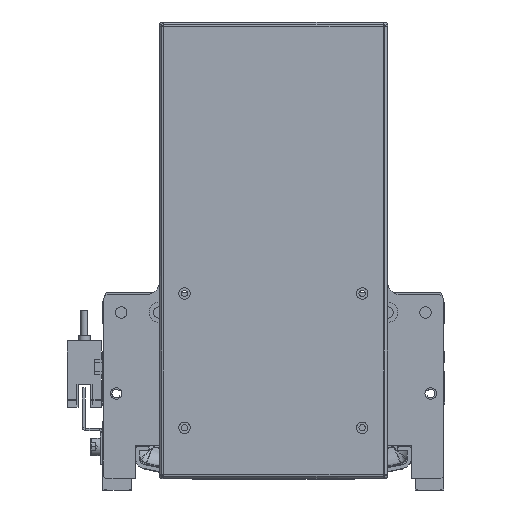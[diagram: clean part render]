
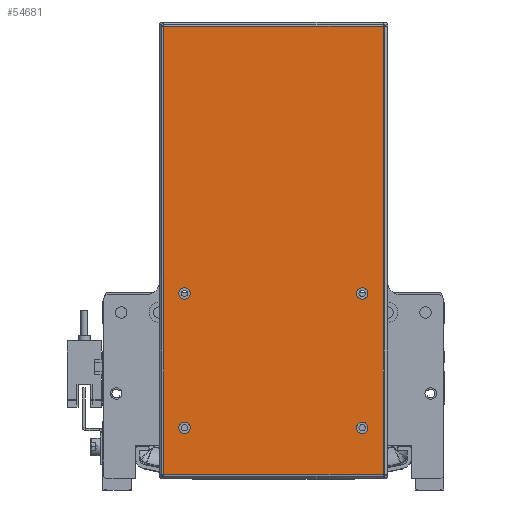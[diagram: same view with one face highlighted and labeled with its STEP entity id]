
A CAD part, front view. The second image highlights one B-rep face of the part: STEP entity #54681.
In plain terms, the highlighted planar face has unit normal (0, -1, 0) as drawn and (0, 1, 0) by its records, which use the part's own axes.
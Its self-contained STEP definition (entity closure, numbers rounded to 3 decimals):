
#10 = DIRECTION ( 'NONE',  ( 0., 1., 0. ) ) ;
#681 = ORIENTED_EDGE ( 'NONE', *, *, #22989, .F. ) ;
#1384 = CARTESIAN_POINT ( 'NONE',  ( -43.263, 0., 88.263 ) ) ;
#2715 = EDGE_CURVE ( 'NONE', #30938, #9114, #4646, .T. ) ;
#2759 = LINE ( 'NONE', #8003, #22894 ) ;
#3639 = EDGE_CURVE ( 'NONE', #40162, #25144, #25400, .T. ) ;
#3832 = FACE_BOUND ( 'NONE', #17102, .T. ) ;
#4556 = CARTESIAN_POINT ( 'NONE',  ( 35., 0., -70. ) ) ;
#4646 = CIRCLE ( 'NONE', #24543, 2.25 ) ;
#5267 = CARTESIAN_POINT ( 'NONE',  ( 35., 0., -14.75 ) ) ;
#5279 = CARTESIAN_POINT ( 'NONE',  ( -35., 0., -17. ) ) ;
#5287 = CARTESIAN_POINT ( 'NONE',  ( -35., 0., -67.75 ) ) ;
#5578 = CIRCLE ( 'NONE', #32184, 2.25 ) ;
#6813 = CARTESIAN_POINT ( 'NONE',  ( 35., 0., -72.25 ) ) ;
#7373 = CARTESIAN_POINT ( 'NONE',  ( 0., 0., 0. ) ) ;
#7420 = VERTEX_POINT ( 'NONE', #1384 ) ;
#8003 = CARTESIAN_POINT ( 'NONE',  ( -43.263, 0., -88.293 ) ) ;
#8031 = VERTEX_POINT ( 'NONE', #5287 ) ;
#8381 = ORIENTED_EDGE ( 'NONE', *, *, #3639, .F. ) ;
#8430 = AXIS2_PLACEMENT_3D ( 'NONE', #5279, #18291, #27545 ) ;
#8723 = ORIENTED_EDGE ( 'NONE', *, *, #16533, .T. ) ;
#8935 = CIRCLE ( 'NONE', #9133, 2.25 ) ;
#9114 = VERTEX_POINT ( 'NONE', #5267 ) ;
#9133 = AXIS2_PLACEMENT_3D ( 'NONE', #39304, #10, #39678 ) ;
#9327 = LINE ( 'NONE', #46648, #10715 ) ;
#10715 = VECTOR ( 'NONE', #20792, 1000. ) ;
#11821 = ORIENTED_EDGE ( 'NONE', *, *, #12286, .T. ) ;
#12024 = CARTESIAN_POINT ( 'NONE',  ( -35., 0., -70. ) ) ;
#12286 = EDGE_CURVE ( 'NONE', #7420, #55052, #9327, .T. ) ;
#12975 = CARTESIAN_POINT ( 'NONE',  ( 35., 0., -17. ) ) ;
#13705 = ORIENTED_EDGE ( 'NONE', *, *, #28531, .F. ) ;
#14323 = AXIS2_PLACEMENT_3D ( 'NONE', #42929, #51793, #33438 ) ;
#14703 = AXIS2_PLACEMENT_3D ( 'NONE', #7373, #51658, #52429 ) ;
#15021 = CIRCLE ( 'NONE', #30062, 2.25 ) ;
#16024 = AXIS2_PLACEMENT_3D ( 'NONE', #12975, #52796, #30191 ) ;
#16360 = CARTESIAN_POINT ( 'NONE',  ( 43.263, 0., -88.263 ) ) ;
#16409 = CIRCLE ( 'NONE', #16024, 2.25 ) ;
#16533 = EDGE_CURVE ( 'NONE', #55052, #22638, #50121, .T. ) ;
#16991 = EDGE_LOOP ( 'NONE', ( #8723, #55547, #56218, #11821 ) ) ;
#17102 = EDGE_LOOP ( 'NONE', ( #681, #27650 ) ) ;
#17937 = DIRECTION ( 'NONE',  ( 0., 0., 1. ) ) ;
#18291 = DIRECTION ( 'NONE',  ( 0., 1., 0. ) ) ;
#20569 = CARTESIAN_POINT ( 'NONE',  ( 35., 0., -19.25 ) ) ;
#20792 = DIRECTION ( 'NONE',  ( 1., 0., 0. ) ) ;
#22638 = VERTEX_POINT ( 'NONE', #16360 ) ;
#22894 = VECTOR ( 'NONE', #34325, 1000. ) ;
#22989 = EDGE_CURVE ( 'NONE', #30946, #36017, #8935, .T. ) ;
#24543 = AXIS2_PLACEMENT_3D ( 'NONE', #29805, #47563, #46801 ) ;
#25144 = VERTEX_POINT ( 'NONE', #36738 ) ;
#25201 = DIRECTION ( 'NONE',  ( 0., 0., 1. ) ) ;
#25223 = DIRECTION ( 'NONE',  ( 0., 0., 1. ) ) ;
#25340 = EDGE_CURVE ( 'NONE', #22638, #38723, #27443, .T. ) ;
#25400 = CIRCLE ( 'NONE', #8430, 2.25 ) ;
#25413 = ORIENTED_EDGE ( 'NONE', *, *, #32594, .F. ) ;
#25734 = DIRECTION ( 'NONE',  ( -1., 0., 0. ) ) ;
#25852 = AXIS2_PLACEMENT_3D ( 'NONE', #29286, #51680, #25223 ) ;
#27340 = FACE_BOUND ( 'NONE', #27856, .T. ) ;
#27443 = LINE ( 'NONE', #52189, #37824 ) ;
#27545 = DIRECTION ( 'NONE',  ( 0., 0., 1. ) ) ;
#27650 = ORIENTED_EDGE ( 'NONE', *, *, #47966, .F. ) ;
#27697 = EDGE_LOOP ( 'NONE', ( #49847, #30385 ) ) ;
#27856 = EDGE_LOOP ( 'NONE', ( #25413, #8381 ) ) ;
#28531 = EDGE_CURVE ( 'NONE', #8031, #44207, #15021, .T. ) ;
#28672 = EDGE_CURVE ( 'NONE', #9114, #30938, #16409, .T. ) ;
#28774 = DIRECTION ( 'NONE',  ( 0., 0., -1. ) ) ;
#28872 = CARTESIAN_POINT ( 'NONE',  ( 35., 0., -67.75 ) ) ;
#29286 = CARTESIAN_POINT ( 'NONE',  ( -35., 0., -70. ) ) ;
#29805 = CARTESIAN_POINT ( 'NONE',  ( 35., 0., -17. ) ) ;
#30062 = AXIS2_PLACEMENT_3D ( 'NONE', #12024, #56281, #25201 ) ;
#30191 = DIRECTION ( 'NONE',  ( 0., 0., 1. ) ) ;
#30385 = ORIENTED_EDGE ( 'NONE', *, *, #2715, .F. ) ;
#30938 = VERTEX_POINT ( 'NONE', #20569 ) ;
#30946 = VERTEX_POINT ( 'NONE', #28872 ) ;
#32184 = AXIS2_PLACEMENT_3D ( 'NONE', #4556, #53474, #17937 ) ;
#32594 = EDGE_CURVE ( 'NONE', #25144, #40162, #34363, .T. ) ;
#32894 = EDGE_LOOP ( 'NONE', ( #13705, #37974 ) ) ;
#33438 = DIRECTION ( 'NONE',  ( 0., 0., 1. ) ) ;
#33896 = PLANE ( 'NONE',  #14703 ) ;
#34300 = FACE_BOUND ( 'NONE', #32894, .T. ) ;
#34325 = DIRECTION ( 'NONE',  ( 0., 0., 1. ) ) ;
#34363 = CIRCLE ( 'NONE', #14323, 2.25 ) ;
#35347 = CARTESIAN_POINT ( 'NONE',  ( 43.263, 0., 88.263 ) ) ;
#35578 = VECTOR ( 'NONE', #28774, 1000. ) ;
#36017 = VERTEX_POINT ( 'NONE', #6813 ) ;
#36738 = CARTESIAN_POINT ( 'NONE',  ( -35., 0., -14.75 ) ) ;
#37042 = CARTESIAN_POINT ( 'NONE',  ( 43.263, 0., 88.293 ) ) ;
#37726 = FACE_OUTER_BOUND ( 'NONE', #16991, .T. ) ;
#37824 = VECTOR ( 'NONE', #25734, 1000. ) ;
#37974 = ORIENTED_EDGE ( 'NONE', *, *, #47095, .F. ) ;
#38723 = VERTEX_POINT ( 'NONE', #44940 ) ;
#39304 = CARTESIAN_POINT ( 'NONE',  ( 35., 0., -70. ) ) ;
#39678 = DIRECTION ( 'NONE',  ( 0., 0., 1. ) ) ;
#40162 = VERTEX_POINT ( 'NONE', #52953 ) ;
#41911 = FACE_BOUND ( 'NONE', #27697, .T. ) ;
#42929 = CARTESIAN_POINT ( 'NONE',  ( -35., 0., -17. ) ) ;
#43810 = EDGE_CURVE ( 'NONE', #38723, #7420, #2759, .T. ) ;
#44207 = VERTEX_POINT ( 'NONE', #51453 ) ;
#44940 = CARTESIAN_POINT ( 'NONE',  ( -43.263, 0., -88.263 ) ) ;
#46648 = CARTESIAN_POINT ( 'NONE',  ( -43.293, 0., 88.263 ) ) ;
#46801 = DIRECTION ( 'NONE',  ( 0., 0., 1. ) ) ;
#47095 = EDGE_CURVE ( 'NONE', #44207, #8031, #47883, .T. ) ;
#47563 = DIRECTION ( 'NONE',  ( 0., 1., 0. ) ) ;
#47883 = CIRCLE ( 'NONE', #25852, 2.25 ) ;
#47966 = EDGE_CURVE ( 'NONE', #36017, #30946, #5578, .T. ) ;
#49847 = ORIENTED_EDGE ( 'NONE', *, *, #28672, .F. ) ;
#50121 = LINE ( 'NONE', #37042, #35578 ) ;
#51453 = CARTESIAN_POINT ( 'NONE',  ( -35., 0., -72.25 ) ) ;
#51658 = DIRECTION ( 'NONE',  ( 0., 1., 0. ) ) ;
#51680 = DIRECTION ( 'NONE',  ( 0., 1., 0. ) ) ;
#51793 = DIRECTION ( 'NONE',  ( 0., 1., 0. ) ) ;
#52189 = CARTESIAN_POINT ( 'NONE',  ( 43.293, 0., -88.263 ) ) ;
#52429 = DIRECTION ( 'NONE',  ( 0., 0., 1. ) ) ;
#52796 = DIRECTION ( 'NONE',  ( 0., 1., 0. ) ) ;
#52953 = CARTESIAN_POINT ( 'NONE',  ( -35., 0., -19.25 ) ) ;
#53474 = DIRECTION ( 'NONE',  ( 0., 1., 0. ) ) ;
#54681 = ADVANCED_FACE ( 'NONE', ( #34300, #3832, #27340, #41911, #37726 ), #33896, .T. ) ;
#55052 = VERTEX_POINT ( 'NONE', #35347 ) ;
#55547 = ORIENTED_EDGE ( 'NONE', *, *, #25340, .T. ) ;
#56218 = ORIENTED_EDGE ( 'NONE', *, *, #43810, .T. ) ;
#56281 = DIRECTION ( 'NONE',  ( 0., 1., 0. ) ) ;
